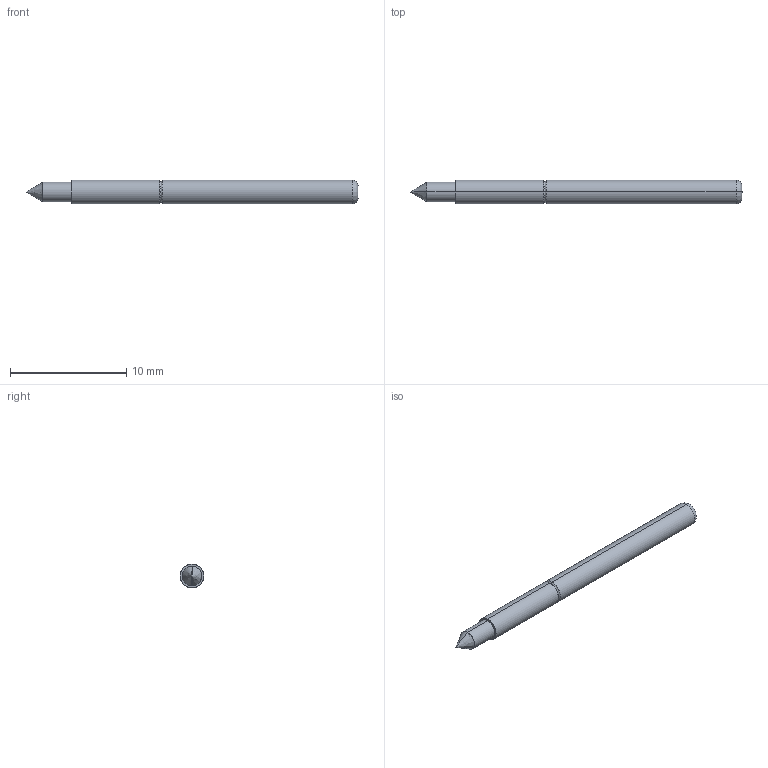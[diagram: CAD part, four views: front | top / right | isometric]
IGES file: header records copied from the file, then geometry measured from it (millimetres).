
Start section: SolidWorks IGES file using analytic representation for surfaces
Global section: file name: O:\PYLON\IGES FILES\P2665\P2665G-1C1S REC'D.IGS; native system: SolidWorks 2015; preprocessor: SolidWorks 2015; author: kgolden; date: 171019.132755; units: inch
Bounding box: 28.52 x 2.03 x 2.03 mm (x, y, z)
Surface area: 187.1 mm2 (no closed solid volume)
Topology: 0 solids, 0 shells, 18 faces, 128 edges, 126 vertices
Faces by surface type: revolution 10, bspline 8
